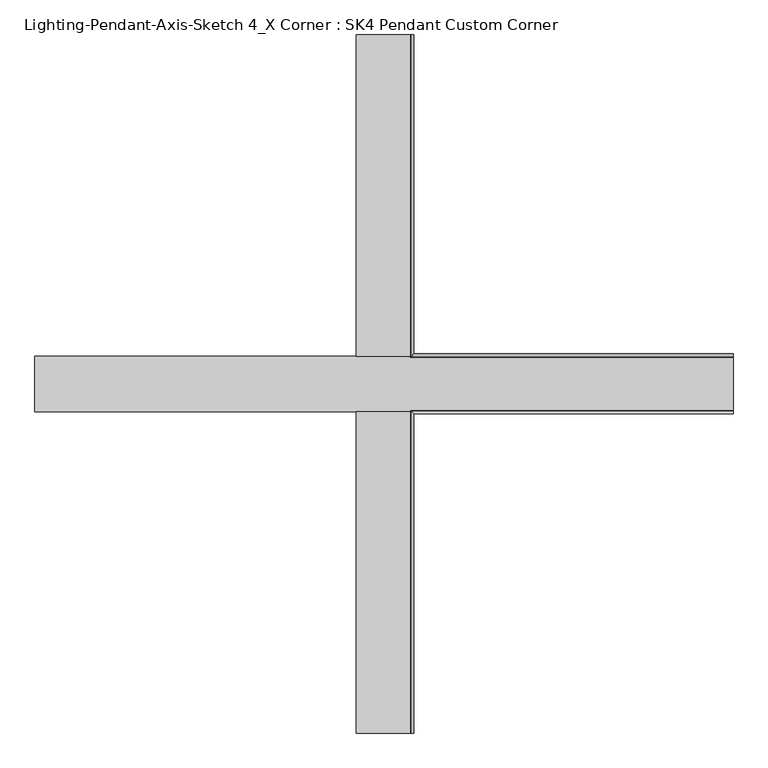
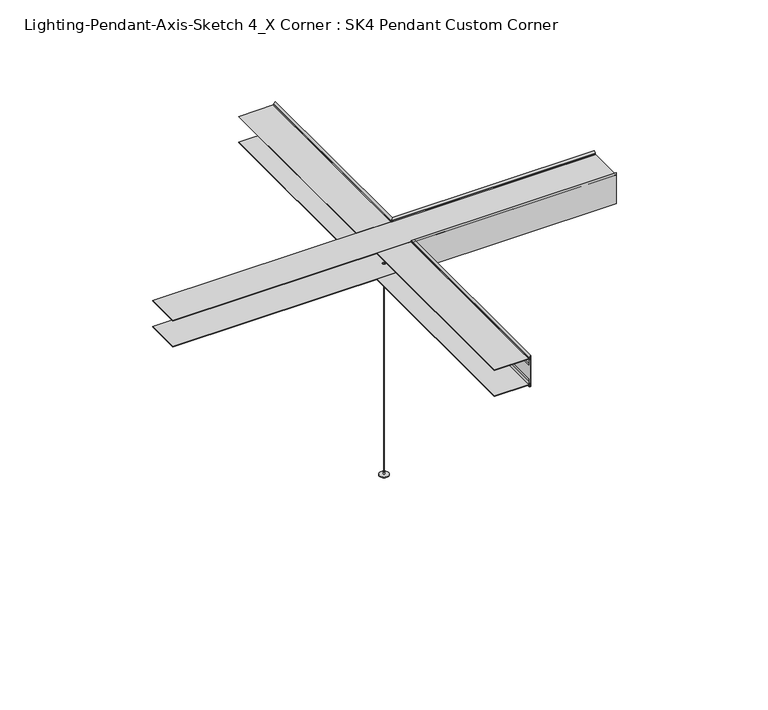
"""IFC4 building model written with IfcOpenShell, lengths in millimetres: light fixture geometry, Lighting-Pendant-Axis-Sketch 4_X Corner : SK4 Pendant Custom Corner."""

from ifc_helpers import new_model, si_unit, point, frame, origin, origin_with_axes, origin_2d, place, context, project, spatial, polyline, circle_curve, ellipse_curve, trimmed, segment, composite_curve, outline, extrude, faceted_brep, source, transform, mapped, element, save
from ifc_brep_helpers import plane_surface, cylinder_surface, revolved_surface, advanced_brep


def lighting_pendant_axis_sketch_4_x_corner_sk4_pendant_custom_45237788(model_context):
    return source(origin(), model_context, "Body", "SolidModel", [
        extrude(outline(composite_curve([segment(trimmed(circle_curve(origin_2d(), 0.396875), [point((-0.396875, 0.0))], [point((0.396875, 0.0))], False, "CARTESIAN"), True, "CONTINUOUS"), segment(trimmed(circle_curve(origin_2d(), 0.396875), [point((0.396875, 0.0))], [point((-0.396875, 0.0))], False, "CARTESIAN"), True, "CONTINUOUS")], self_intersect=False)), frame((0.0, 0.0, 9.525), z_axis=(0.0, 0.0, 1.0), x_axis=(1.0, 0.0, 0.0)), (0.0, 0.0, 1.0), 600.075),
        advanced_brep(
        [(0.0, 1.2, 583.1008521), (0.0, -1.2, 583.1008521), (0.0, -2.95625, 583.1008521), (0.0, 2.95625, 583.1008521), (0.0, 1.2, 580.2508521), (0.0, -1.2, 580.2508521), (0.0, 0.0, 580.2508521), (0.0, 3.75, 616.0364681), (0.0, -3.75, 616.0364681), (0.0, 0.0, 616.0364681), (0.0, 3.75, 584.1008521), (0.0, -3.75, 584.1008521), (0.0, 2.95625, 584.1008521), (0.0, -2.95625, 584.1008521)],
        [
            (0, 1, circle_curve(frame((0.0, 0.0, 583.1008521), z_axis=(0.0, 0.0, 1.0), x_axis=(0.0, -1.0, 0.0)), 1.2)),
            (1, 2),
            (2, 3, circle_curve(frame((0.0, 0.0, 583.1008521), z_axis=(0.0, 0.0, -1.0), x_axis=(0.0, -1.0, 0.0)), 2.95625)),
            (3, 0),
            (1, 0, circle_curve(frame((0.0, 0.0, 583.1008521), z_axis=(0.0, 0.0, 1.0), x_axis=(0.0, -1.0, 0.0)), 1.2)),
            (3, 2, circle_curve(frame((0.0, 0.0, 583.1008521), z_axis=(0.0, 0.0, -1.0), x_axis=(0.0, -1.0, 0.0)), 2.95625)),
            (4, 5, circle_curve(frame((0.0, 0.0, 580.2508521), z_axis=(0.0, 0.0, 1.0), x_axis=(0.0, -1.0, 0.0)), 1.2)),
            (5, 1),
            (0, 4),
            (5, 4, circle_curve(frame((0.0, 0.0, 580.2508521), z_axis=(0.0, 0.0, 1.0), x_axis=(0.0, -1.0, 0.0)), 1.2)),
            (6, 5),
            (4, 6),
            (7, 8, circle_curve(frame((0.0, 0.0, 616.0364681), z_axis=(0.0, 0.0, 1.0), x_axis=(0.0, -1.0, 0.0)), 3.75)),
            (8, 9),
            (9, 7),
            (8, 7, circle_curve(frame((0.0, 0.0, 616.0364681), z_axis=(0.0, 0.0, 1.0), x_axis=(0.0, -1.0, 0.0)), 3.75)),
            (10, 11, circle_curve(frame((0.0, 0.0, 584.1008521), z_axis=(0.0, 0.0, 1.0), x_axis=(0.0, -1.0, 0.0)), 3.75)),
            (11, 8),
            (7, 10),
            (11, 10, circle_curve(frame((0.0, 0.0, 584.1008521), z_axis=(0.0, 0.0, 1.0), x_axis=(0.0, -1.0, 0.0)), 3.75)),
            (12, 13, circle_curve(frame((0.0, 0.0, 584.1008521), z_axis=(0.0, 0.0, 1.0), x_axis=(0.0, -1.0, 0.0)), 2.95625)),
            (13, 11),
            (10, 12),
            (13, 12, circle_curve(frame((0.0, 0.0, 584.1008521), z_axis=(0.0, 0.0, 1.0), x_axis=(0.0, -1.0, 0.0)), 2.95625)),
            (2, 13),
            (12, 3),
        ],
        [
            plane_surface(frame((0.0, 0.0, 583.1008521), z_axis=(0.0, 0.0, -1.0), x_axis=(0.0, -1.0, 0.0))),
            cylinder_surface(frame((0.0, 0.0, 2648.6067943), z_axis=(0.0, 0.0, -1.0), x_axis=(0.0, -1.0, 0.0)), 1.2),
            plane_surface(frame((0.0, 0.0, 580.2508521), z_axis=(0.0, 0.0, -1.0), x_axis=(0.0, -1.0, 0.0))),
            plane_surface(frame((0.0, 0.0, 616.0364681), z_axis=(0.0, 0.0, 1.0), x_axis=(0.0, -1.0, 0.0))),
            cylinder_surface(frame((0.0, 0.0, 2648.6067943), z_axis=(0.0, 0.0, -1.0), x_axis=(0.0, -1.0, 0.0)), 3.75),
            plane_surface(frame((0.0, 0.0, 584.1008521), z_axis=(0.0, 0.0, -1.0), x_axis=(0.0, -1.0, 0.0))),
            cylinder_surface(frame((0.0, 0.0, 2648.6067943), z_axis=(0.0, 0.0, -1.0), x_axis=(0.0, -1.0, 0.0)), 2.95625),
        ],
        [
            (0, [[1, 2, 3, 4]]),
            (0, [[5, -4, 6, -2]]),
            (1, [[7, 8, -1, 9]]),
            (1, [[10, -9, -5, -8]]),
            (2, [[11, -7, 12]]),
            (2, [[-12, -10, -11]]),
            (3, [[13, 14, 15]]),
            (3, [[16, -15, -14]]),
            (4, [[17, 18, -13, 19]]),
            (4, [[20, -19, -16, -18]]),
            (5, [[21, 22, -17, 23]]),
            (5, [[24, -23, -20, -22]]),
            (6, [[-3, 25, -21, 26]]),
            (6, [[-6, -26, -24, -25]]),
        ],
    ),
        extrude(outline(composite_curve([segment(trimmed(circle_curve(origin_2d(), 12.7), [point((-12.7, 0.0))], [point((12.7, 0.0))], False, "CARTESIAN"), True, "CONTINUOUS"), segment(trimmed(circle_curve(origin_2d(), 12.7), [point((12.7, 0.0))], [point((-12.7, 0.0))], False, "CARTESIAN"), True, "CONTINUOUS")], self_intersect=False)), origin_with_axes(), (0.0, 0.0, 1.0), 1.5875),
        extrude(outline(composite_curve([segment(trimmed(circle_curve(origin_2d(), 1.5875), [point((-1.5875, 0.0))], [point((1.5875, 0.0))], False, "CARTESIAN"), True, "CONTINUOUS"), segment(trimmed(circle_curve(origin_2d(), 1.5875), [point((1.5875, 0.0))], [point((-1.5875, 0.0))], False, "CARTESIAN"), True, "CONTINUOUS")], self_intersect=False)), frame((0.0, 0.0, 1.5875), z_axis=(0.0, 0.0, 1.0), x_axis=(1.0, 0.0, 0.0)), (0.0, 0.0, 1.0), 7.9375),
        extrude(outline(polyline([(-48.2599987, 609.6), (48.2599977, 609.6), (48.2599977, 48.2599977), (-48.2599987, 48.2599977), (-48.2599987, 609.6)])), frame((0.0, 0.0, 689.9966516), z_axis=(0.0, 0.0, 1.0), x_axis=(1.0, 0.0, 0.0)), (0.0, 0.0, 1.0), 1.2700021),
        extrude(outline(polyline([(-48.2599987, 609.6), (48.2599977, 609.6), (48.2599977, 48.2599977), (-48.2599987, 48.2599977), (-48.2599987, 609.6)])), frame((0.0, 0.0, 614.5727648), z_axis=(0.0, 0.0, 1.0), x_axis=(1.0, 0.0, 0.0)), (0.0, 0.0, 1.0), 1.27),
        extrude(outline(polyline([(48.2599977, -609.6), (-48.2599987, -609.6), (-48.2599987, -48.2599987), (48.2599977, -48.2599987), (48.2599977, -609.6)])), frame((0.0, 0.0, 689.9966516), z_axis=(0.0, 0.0, 1.0), x_axis=(1.0, 0.0, 0.0)), (0.0, 0.0, 1.0), 1.2700021),
        extrude(outline(polyline([(48.2599977, -609.6), (-48.2599987, -609.6), (-48.2599987, -48.2599987), (48.2599977, -48.2599987), (48.2599977, -609.6)])), frame((0.0, 0.0, 614.5727648), z_axis=(0.0, 0.0, 1.0), x_axis=(1.0, 0.0, 0.0)), (0.0, 0.0, 1.0), 1.27),
        extrude(outline(polyline([(-609.6, -48.2599987), (-609.6, 48.2599977), (609.6, 48.2599977), (609.6, -48.2599987), (-609.6, -48.2599987)])), frame((0.0, 0.0, 689.9966516), z_axis=(0.0, 0.0, 1.0), x_axis=(1.0, 0.0, 0.0)), (0.0, 0.0, 1.0), 1.2700021),
        extrude(outline(polyline([(-609.6, -48.2599987), (-609.6, 48.2599977), (609.6, 48.2599977), (609.6, -48.2599987), (-609.6, -48.2599987)])), frame((0.0, 0.0, 614.5727648), z_axis=(0.0, 0.0, 1.0), x_axis=(1.0, 0.0, 0.0)), (0.0, 0.0, 1.0), 1.27),
        faceted_brep([(52.387502, -609.6, 608.1183333), (52.387502, -609.6, 698.5705614), (47.9424983, -609.6, 694.1255577), (50.4824984, -609.6, 694.1255577), (50.4824984, -609.6, 610.0233333), (48.5749867, -609.6, 610.0233333), (48.5749867, -609.6, 611.2933333), (47.3074984, -609.6, 611.2933333), (47.3074984, -609.6, 609.6312495), (48.8649121, -609.6, 608.1183333), (609.6, -52.387502, 608.1183333), (609.6, -48.8649121, 608.1183333), (609.6, -47.3074984, 609.6312495), (609.6, -47.3074984, 611.2933333), (609.6, -48.5749867, 611.2933333), (609.6, -48.5749867, 610.0233333), (609.6, -50.4824984, 610.0233333), (609.6, -50.4824984, 694.1255577), (609.6, -47.9424983, 694.1255577), (609.6, -52.387502, 698.5705614), (52.387502, -52.387502, 608.1183333), (52.387502, -52.387502, 698.5705614), (47.9424983, -47.9424983, 694.1255577), (50.4824984, -50.4824984, 694.1255577), (50.4824984, -50.4824984, 610.0233333), (48.5749867, -48.5749867, 610.0233333), (48.5749867, -48.5749867, 611.2933333), (47.3074984, -47.3074984, 611.2933333), (47.3074984, -47.3074984, 609.6312495), (48.8649121, -48.8649121, 608.1183333)], [[[0, 1, 2, 3, 4, 5, 6, 7, 8, 9]], [[10, 11, 12, 13, 14, 15, 16, 17, 18, 19]], [[1, 0, 20, 21]], [[2, 1, 21, 22]], [[3, 2, 22, 18, 17, 23]], [[4, 3, 23, 24]], [[5, 4, 24, 16, 15, 25]], [[6, 5, 25, 26]], [[7, 6, 26, 14, 13, 27]], [[8, 7, 27, 28]], [[9, 8, 28, 29]], [[0, 9, 29, 11, 10, 20]], [[21, 20, 10, 19]], [[22, 21, 19, 18]], [[24, 23, 17, 16]], [[26, 25, 15, 14]], [[28, 27, 13, 12]], [[29, 28, 12, 11]]]),
        advanced_brep(
        [(47.7623797, -609.6, 617.2181133), (47.203689, -609.6, 626.6227718), (47.1663883, -609.6, 632.7774986), (46.1433321, -609.6, 632.7774986), (46.2138897, -609.6, 626.1805556), (46.8043106, -609.6, 616.3008472), (48.3048304, -609.6, 616.3008472), (48.9655543, -609.6, 615.7383333), (48.9062894, -609.6, 614.1085157), (46.5723819, -609.6, 614.1933833), (48.2952793, -609.6, 612.3516667), (49.9180536, -609.6, 613.3747222), (49.9533335, -609.6, 615.7030556), (609.6, -47.7623797, 617.2181133), (609.6, -49.9533335, 615.7030556), (609.6, -49.9180536, 613.3747222), (609.6, -48.2952793, 612.3516667), (609.6, -46.5723819, 614.1933833), (609.6, -48.9062894, 614.1085157), (609.6, -48.9655543, 615.7383333), (609.6, -48.3048304, 616.3008472), (609.6, -46.8043106, 616.3008472), (609.6, -46.2138897, 626.1805556), (609.6, -46.1433321, 632.7774986), (609.6, -47.1663883, 632.7774986), (609.6, -47.203689, 626.6227718), (47.7623797, -47.7623797, 617.2181133), (47.203689, -47.203689, 626.6227718), (47.1663883, -47.1663883, 632.7774986), (46.1433321, -46.1433321, 632.7774986), (46.2138897, -46.2138897, 626.1805556), (46.8043106, -46.8043106, 616.3008472), (48.3048304, -48.3048304, 616.3008472), (48.9655543, -48.9655543, 615.7383333), (48.9062894, -48.9062894, 614.1085157), (46.5723819, -46.5723819, 614.1933833), (48.2952793, -48.2952793, 612.3516667), (49.9180536, -49.9180536, 613.3747222), (49.9533335, -49.9533335, 615.7030556)],
        [
            (0, 1),
            (1, 2),
            (2, 3),
            (3, 4),
            (4, 5),
            (5, 6),
            (6, 7, circle_curve(frame((48.3048304, -609.6, 615.63155), z_axis=(0.0, 1.0, 0.0), x_axis=(-1.0, 0.0, 0.0)), 0.6692972)),
            (7, 8),
            (8, 9),
            (9, 10),
            (10, 11, circle_curve(frame((48.7732449, -609.6, 613.3920688), z_axis=(0.0, -1.0, 0.0), x_axis=(-1.0, 0.0, 0.0)), 1.1449401)),
            (11, 12),
            (12, 0, circle_curve(frame((48.3340208, -609.6, 615.7030556), z_axis=(0.0, -1.0, 0.0), x_axis=(-1.0, 0.0, 0.0)), 1.6193127)),
            (13, 14, circle_curve(frame((609.6, -48.3340208, 615.7030556), z_axis=(1.0, 0.0, 0.0), x_axis=(0.0, 1.0, 0.0)), 1.6193127)),
            (14, 15),
            (15, 16, circle_curve(frame((609.6, -48.7732449, 613.3920688), z_axis=(1.0, 0.0, 0.0), x_axis=(0.0, 1.0, 0.0)), 1.1449401)),
            (16, 17),
            (17, 18),
            (18, 19),
            (19, 20, circle_curve(frame((609.6, -48.3048304, 615.63155), z_axis=(-1.0, 0.0, 0.0), x_axis=(0.0, 1.0, 0.0)), 0.6692972)),
            (20, 21),
            (21, 22),
            (22, 23),
            (23, 24),
            (24, 25),
            (25, 13),
            (0, 26),
            (26, 27),
            (27, 1),
            (27, 28),
            (28, 2),
            (28, 24),
            (23, 29),
            (29, 3),
            (29, 30),
            (30, 4),
            (30, 31),
            (31, 5),
            (31, 21),
            (20, 32),
            (32, 6),
            (32, 33, ellipse_curve(frame((48.3048304, -48.3048304, 615.63155), z_axis=(0.7071067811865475, 0.7071067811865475, 0.0), x_axis=(-0.7071067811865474, 0.7071067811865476, 0.0)), 0.9465291, 0.6692972)),
            (33, 7),
            (33, 34),
            (34, 8),
            (34, 35),
            (35, 9),
            (35, 36),
            (36, 10),
            (36, 37, ellipse_curve(frame((48.7732449, -48.7732449, 613.3920688), z_axis=(-0.7071067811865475, -0.7071067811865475, 0.0), x_axis=(0.7071067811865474, -0.7071067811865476, 0.0)), 1.6191898, 1.1449401)),
            (37, 11),
            (37, 38),
            (38, 12),
            (38, 26, ellipse_curve(frame((48.3340208, -48.3340208, 615.7030556), z_axis=(-0.7071067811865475, -0.7071067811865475, 0.0), x_axis=(0.7071067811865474, -0.7071067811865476, 0.0)), 2.290054, 1.6193127)),
            (26, 13),
            (25, 27),
            (22, 30),
            (19, 33),
            (18, 34),
            (17, 35),
            (16, 36),
            (15, 37),
            (14, 38),
        ],
        [
            plane_surface(frame((0.0, -609.6, 609.6), z_axis=(0.0, -1.0, 0.0), x_axis=(0.0, 0.0, 1.0))),
            plane_surface(frame((609.6, 0.0, 609.6), z_axis=(1.0, 0.0, 0.0), x_axis=(0.0, 0.0, 1.0))),
            plane_surface(frame((47.7623797, -609.6, 617.2181133), z_axis=(0.9982401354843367, 0.0, 0.059301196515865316), x_axis=(0.0, 1.0, 0.0))),
            plane_surface(frame((47.203689, -609.6, 626.6227718), z_axis=(0.999981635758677, 0.0, 0.006060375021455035), x_axis=(0.0, 1.0, 0.0))),
            plane_surface(frame((47.1663883, -609.6, 632.7774986), z_axis=(0.0, 0.0, 1.0), x_axis=(0.0, 1.0, 0.0))),
            plane_surface(frame((46.1433321, -609.6, 632.7774986), z_axis=(-0.9999428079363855, 0.0, -0.010694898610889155), x_axis=(0.0, 1.0, 0.0))),
            plane_surface(frame((46.2138897, -609.6, 626.1805556), z_axis=(-0.9982190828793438, 0.0, -0.05965452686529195), x_axis=(0.0, 1.0, 0.0))),
            plane_surface(frame((46.8043106, -609.6, 616.3008472), z_axis=(0.0, 0.0, -1.0), x_axis=(0.0, 1.0, 0.0))),
            revolved_surface(polyline([(47.6355332, -47.63553325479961, 615.63155), (47.6355332, -609.6, 615.63155)]), (48.3048304, -609.6, 615.63155), (0.0, 1.0, 0.0)),
            plane_surface(frame((48.9655543, -609.6, 615.7383333), z_axis=(-0.9993395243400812, 0.0, 0.03633889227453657), x_axis=(0.0, 1.0, 0.0))),
            plane_surface(frame((48.9062894, -609.6, 614.1085157), z_axis=(0.03633889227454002, 0.0, 0.9993395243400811), x_axis=(0.0, 1.0, 0.0))),
            plane_surface(frame((46.5723819, -609.6, 614.1933833), z_axis=(-0.7302711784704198, 0.0, -0.6831573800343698), x_axis=(0.0, 1.0, 0.0))),
            cylinder_surface(frame((48.7732449, -609.6, 613.3920688), z_axis=(0.0, -1.0, 0.0), x_axis=(-1.0, 0.0, 0.0)), 1.1449401),
            plane_surface(frame((49.9180536, -609.6, 613.3747222), z_axis=(0.9998852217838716, 0.0, -0.015150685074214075), x_axis=(0.0, 1.0, 0.0))),
            cylinder_surface(frame((48.3340208, -609.6, 615.7030556), z_axis=(0.0, -1.0, 0.0), x_axis=(-1.0, 0.0, 0.0)), 1.6193127),
            plane_surface(frame((47.7623797, -47.7623797, 617.2181133), z_axis=(0.0, -0.9982401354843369, 0.059301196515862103), x_axis=(1.0, 0.0, 0.0))),
            plane_surface(frame((47.203689, -47.203689, 626.6227718), z_axis=(0.0, -0.999981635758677, 0.006060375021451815), x_axis=(1.0, 0.0, 0.0))),
            plane_surface(frame((46.1433321, -46.1433321, 632.7774986), z_axis=(0.0, 0.9999428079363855, -0.010694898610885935), x_axis=(1.0, 0.0, 0.0))),
            plane_surface(frame((46.2138897, -46.2138897, 626.1805556), z_axis=(0.0, 0.998219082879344, -0.059654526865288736), x_axis=(1.0, 0.0, 0.0))),
            revolved_surface(polyline([(609.6, -47.6355332, 615.63155), (47.6355332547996, -47.6355332, 615.63155)]), (0.0, -48.3048304, 615.63155), (1.0, 0.0, 0.0)),
            plane_surface(frame((48.9655543, -48.9655543, 615.7383333), z_axis=(0.0, 0.9993395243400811, 0.03633889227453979), x_axis=(1.0, 0.0, 0.0))),
            plane_surface(frame((48.9062894, -48.9062894, 614.1085157), z_axis=(0.0, -0.03633889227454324, 0.999339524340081), x_axis=(1.0, 0.0, 0.0))),
            plane_surface(frame((46.5723819, -46.5723819, 614.1933833), z_axis=(0.0, 0.730271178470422, -0.6831573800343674), x_axis=(1.0, 0.0, 0.0))),
            cylinder_surface(frame((0.0, -48.7732449, 613.3920688), z_axis=(-1.0, 0.0, 0.0), x_axis=(0.0, 1.0, 0.0)), 1.1449401),
            plane_surface(frame((49.9180536, -49.9180536, 613.3747222), z_axis=(0.0, -0.9998852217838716, -0.015150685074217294), x_axis=(1.0, 0.0, 0.0))),
            cylinder_surface(frame((0.0, -48.3340208, 615.7030556), z_axis=(-1.0, 0.0, 0.0), x_axis=(0.0, 1.0, 0.0)), 1.6193127),
        ],
        [
            (0, [[1, 2, 3, 4, 5, 6, 7, 8, 9, 10, 11, 12, 13]]),
            (1, [[14, 15, 16, 17, 18, 19, 20, 21, 22, 23, 24, 25, 26]]),
            (2, [[-1, 27, 28, 29]]),
            (3, [[-2, -29, 30, 31]]),
            (4, [[-3, -31, 32, -24, 33, 34]]),
            (5, [[-4, -34, 35, 36]]),
            (6, [[-5, -36, 37, 38]]),
            (7, [[-6, -38, 39, -21, 40, 41]]),
            (8, [[-7, -41, 42, 43]]),
            (9, [[-8, -43, 44, 45]]),
            (10, [[-9, -45, 46, 47]]),
            (11, [[-10, -47, 48, 49]]),
            (12, [[-11, -49, 50, 51]]),
            (13, [[-12, -51, 52, 53]]),
            (14, [[-13, -53, 54, -27]]),
            (15, [[-28, 55, -26, 56]]),
            (16, [[-30, -56, -25, -32]]),
            (17, [[-35, -33, -23, 57]]),
            (18, [[-37, -57, -22, -39]]),
            (19, [[-42, -40, -20, 58]]),
            (20, [[-44, -58, -19, 59]]),
            (21, [[-46, -59, -18, 60]]),
            (22, [[-48, -60, -17, 61]]),
            (23, [[-50, -61, -16, 62]]),
            (24, [[-52, -62, -15, 63]]),
            (25, [[-54, -63, -14, -55]]),
        ],
    ),
        advanced_brep(
        [(47.1044268, -609.6, 679.4782704), (47.2795148, -609.6, 688.3201765), (49.4241668, -609.6, 690.1038875), (49.2830578, -609.6, 692.4322236), (47.6250008, -609.6, 693.3847222), (45.9802057, -609.6, 691.5049613), (48.3121579, -609.6, 691.6345118), (48.4283489, -609.6, 689.5430339), (46.305025, -609.6, 689.3731705), (46.1087781, -609.6, 679.4627439), (46.318589, -609.6, 672.9236111), (47.3427772, -609.6, 672.9236111), (609.6, -47.1044268, 679.4782704), (609.6, -47.3427772, 672.9236111), (609.6, -46.318589, 672.9236111), (609.6, -46.1087781, 679.4627439), (609.6, -46.305025, 689.3731705), (609.6, -48.4283489, 689.5430339), (609.6, -48.3121579, 691.6345118), (609.6, -45.9802057, 691.5049613), (609.6, -47.6250008, 693.3847222), (609.6, -49.2830578, 692.4322236), (609.6, -49.4241668, 690.1038875), (609.6, -47.2795148, 688.3201765), (47.1044268, -47.1044268, 679.4782704), (47.2795148, -47.2795148, 688.3201765), (49.4241668, -49.4241668, 690.1038875), (49.2830578, -49.2830578, 692.4322236), (47.6250008, -47.6250008, 693.3847222), (45.9802057, -45.9802057, 691.5049613), (48.3121579, -48.3121579, 691.6345118), (48.4283489, -48.4283489, 689.5430339), (46.305025, -46.305025, 689.3731705), (46.1087781, -46.1087781, 679.4627439), (46.318589, -46.318589, 672.9236111), (47.3427772, -47.3427772, 672.9236111)],
        [
            (0, 1),
            (1, 2, circle_curve(frame((47.6971346, -609.6, 689.9992206), z_axis=(0.0, -1.0, 0.0), x_axis=(-1.0, 0.0, 0.0)), 1.730201)),
            (2, 3),
            (3, 4, circle_curve(frame((48.1406669, -609.6, 692.3629889), z_axis=(0.0, -1.0, 0.0), x_axis=(-1.0, 0.0, 0.0)), 1.144487)),
            (4, 5),
            (5, 6),
            (6, 7),
            (7, 8),
            (8, 9),
            (9, 10),
            (10, 11),
            (11, 0),
            (12, 13),
            (13, 14),
            (14, 15),
            (15, 16),
            (16, 17),
            (17, 18),
            (18, 19),
            (19, 20),
            (20, 21, circle_curve(frame((609.6, -48.1406669, 692.3629889), z_axis=(1.0, 0.0, 0.0), x_axis=(0.0, 1.0, 0.0)), 1.144487)),
            (21, 22),
            (22, 23, circle_curve(frame((609.6, -47.6971346, 689.9992206), z_axis=(1.0, 0.0, 0.0), x_axis=(0.0, 1.0, 0.0)), 1.730201)),
            (23, 12),
            (0, 24),
            (24, 25),
            (25, 1),
            (25, 26, ellipse_curve(frame((47.6971346, -47.6971346, 689.9992206), z_axis=(-0.7071067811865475, -0.7071067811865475, 0.0), x_axis=(0.7071067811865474, -0.7071067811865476, 0.0)), 2.4468737, 1.730201)),
            (26, 2),
            (26, 27),
            (27, 3),
            (27, 28, ellipse_curve(frame((48.1406669, -48.1406669, 692.3629889), z_axis=(-0.7071067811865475, -0.7071067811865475, 0.0), x_axis=(0.7071067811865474, -0.7071067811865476, 0.0)), 1.618549, 1.144487)),
            (28, 4),
            (28, 29),
            (29, 5),
            (29, 30),
            (30, 6),
            (30, 31),
            (31, 7),
            (31, 32),
            (32, 8),
            (32, 33),
            (33, 9),
            (33, 34),
            (34, 10),
            (34, 14),
            (13, 35),
            (35, 11),
            (35, 24),
            (24, 12),
            (23, 25),
            (22, 26),
            (21, 27),
            (20, 28),
            (19, 29),
            (18, 30),
            (17, 31),
            (16, 32),
            (15, 33),
        ],
        [
            plane_surface(frame((0.0, -609.6, 609.6), z_axis=(0.0, -1.0, 0.0), x_axis=(0.0, 0.0, 1.0))),
            plane_surface(frame((609.6, 0.0, 609.6), z_axis=(1.0, 0.0, 0.0), x_axis=(0.0, 0.0, 1.0))),
            plane_surface(frame((47.1044268, -609.6, 679.4782704), z_axis=(0.9998039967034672, 0.0, -0.019798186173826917), x_axis=(0.0, 1.0, 0.0))),
            cylinder_surface(frame((47.6971346, -609.6, 689.9992206), z_axis=(0.0, -1.0, 0.0), x_axis=(-1.0, 0.0, 0.0)), 1.730201),
            plane_surface(frame((49.4241668, -609.6, 690.1038875), z_axis=(0.9981685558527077, 0.0, 0.06049408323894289), x_axis=(0.0, 1.0, 0.0))),
            cylinder_surface(frame((48.1406669, -609.6, 692.3629889), z_axis=(0.0, -1.0, 0.0), x_axis=(-1.0, 0.0, 0.0)), 1.144487),
            plane_surface(frame((47.6250008, -609.6, 693.3847222), z_axis=(-0.7525758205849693, 0.0, 0.6585056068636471), x_axis=(0.0, 1.0, 0.0))),
            plane_surface(frame((45.9802057, -609.6, 691.5049613), z_axis=(0.05546897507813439, 0.0, -0.9984604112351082), x_axis=(0.0, 1.0, 0.0))),
            plane_surface(frame((48.3121579, -609.6, 691.6345118), z_axis=(-0.9984604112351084, 0.0, -0.05546897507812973), x_axis=(0.0, 1.0, 0.0))),
            plane_surface(frame((48.4283489, -609.6, 689.5430339), z_axis=(-0.07974403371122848, 0.0, 0.9968153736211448), x_axis=(0.0, 1.0, 0.0))),
            plane_surface(frame((46.305025, -609.6, 689.3731705), z_axis=(-0.9998039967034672, 0.0, 0.019798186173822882), x_axis=(0.0, 1.0, 0.0))),
            plane_surface(frame((46.1087781, -609.6, 679.4627439), z_axis=(-0.99948565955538, 0.0, -0.03206893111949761), x_axis=(0.0, 1.0, 0.0))),
            plane_surface(frame((46.318589, -609.6, 672.9236111), z_axis=(0.0, 0.0, -1.0), x_axis=(0.0, 1.0, 0.0))),
            plane_surface(frame((47.3427772, -609.6, 672.9236111), z_axis=(0.9993395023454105, 0.0, 0.03633949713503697), x_axis=(0.0, 1.0, 0.0))),
            plane_surface(frame((47.1044268, -47.1044268, 679.4782704), z_axis=(0.0, -0.9998039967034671, -0.019798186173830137), x_axis=(1.0, 0.0, 0.0))),
            cylinder_surface(frame((0.0, -47.6971346, 689.9992206), z_axis=(-1.0, 0.0, 0.0), x_axis=(0.0, 1.0, 0.0)), 1.730201),
            plane_surface(frame((49.4241668, -49.4241668, 690.1038875), z_axis=(0.0, -0.9981685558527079, 0.06049408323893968), x_axis=(1.0, 0.0, 0.0))),
            cylinder_surface(frame((0.0, -48.1406669, 692.3629889), z_axis=(-1.0, 0.0, 0.0), x_axis=(0.0, 1.0, 0.0)), 1.144487),
            plane_surface(frame((47.6250008, -47.6250008, 693.3847222), z_axis=(0.0, 0.7525758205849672, 0.6585056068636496), x_axis=(1.0, 0.0, 0.0))),
            plane_surface(frame((45.9802057, -45.9802057, 691.5049613), z_axis=(0.0, -0.05546897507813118, -0.9984604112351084), x_axis=(1.0, 0.0, 0.0))),
            plane_surface(frame((48.3121579, -48.3121579, 691.6345118), z_axis=(0.0, 0.9984604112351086, -0.055468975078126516), x_axis=(1.0, 0.0, 0.0))),
            plane_surface(frame((48.4283489, -48.4283489, 689.5430339), z_axis=(0.0, 0.07974403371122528, 0.996815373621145), x_axis=(1.0, 0.0, 0.0))),
            plane_surface(frame((46.305025, -46.305025, 689.3731705), z_axis=(0.0, 0.9998039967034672, 0.019798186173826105), x_axis=(1.0, 0.0, 0.0))),
            plane_surface(frame((46.1087781, -46.1087781, 679.4627439), z_axis=(0.0, 0.9994856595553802, -0.03206893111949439), x_axis=(1.0, 0.0, 0.0))),
            plane_surface(frame((47.3427772, -47.3427772, 672.9236111), z_axis=(0.0, -0.9993395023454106, 0.03633949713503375), x_axis=(1.0, 0.0, 0.0))),
        ],
        [
            (0, [[1, 2, 3, 4, 5, 6, 7, 8, 9, 10, 11, 12]]),
            (1, [[13, 14, 15, 16, 17, 18, 19, 20, 21, 22, 23, 24]]),
            (2, [[-1, 25, 26, 27]]),
            (3, [[-2, -27, 28, 29]]),
            (4, [[-3, -29, 30, 31]]),
            (5, [[-4, -31, 32, 33]]),
            (6, [[-5, -33, 34, 35]]),
            (7, [[-6, -35, 36, 37]]),
            (8, [[-7, -37, 38, 39]]),
            (9, [[-8, -39, 40, 41]]),
            (10, [[-9, -41, 42, 43]]),
            (11, [[-10, -43, 44, 45]]),
            (12, [[-11, -45, 46, -14, 47, 48]]),
            (13, [[-12, -48, 49, -25]]),
            (14, [[-26, 50, -24, 51]]),
            (15, [[-28, -51, -23, 52]]),
            (16, [[-30, -52, -22, 53]]),
            (17, [[-32, -53, -21, 54]]),
            (18, [[-34, -54, -20, 55]]),
            (19, [[-36, -55, -19, 56]]),
            (20, [[-38, -56, -18, 57]]),
            (21, [[-40, -57, -17, 58]]),
            (22, [[-42, -58, -16, 59]]),
            (23, [[-44, -59, -15, -46]]),
            (24, [[-49, -47, -13, -50]]),
        ],
    ),
        faceted_brep([(52.387502, 609.6, 608.1183333), (48.8649121, 609.6, 608.1183333), (47.3074984, 609.6, 609.6312495), (47.3074984, 609.6, 611.2933333), (48.5749867, 609.6, 611.2933333), (48.5749867, 609.6, 610.0233333), (50.4824984, 609.6, 610.0233333), (50.4824984, 609.6, 694.1255577), (47.9424983, 609.6, 694.1255577), (52.387502, 609.6, 698.5705614), (609.6, 52.387502, 608.1183333), (609.6, 52.387502, 698.5705614), (609.6, 47.9424983, 694.1255577), (609.6, 50.4824984, 694.1255577), (609.6, 50.4824984, 610.0233333), (609.6, 48.5749867, 610.0233333), (609.6, 48.5749867, 611.2933333), (609.6, 47.3074984, 611.2933333), (609.6, 47.3074984, 609.6312495), (609.6, 48.8649121, 608.1183333), (52.387502, 52.387502, 608.1183333), (48.8649121, 48.8649121, 608.1183333), (47.3074984, 47.3074984, 609.6312495), (47.3074984, 47.3074984, 611.2933333), (48.5749867, 48.5749867, 611.2933333), (48.5749867, 48.5749867, 610.0233333), (50.4824984, 50.4824984, 610.0233333), (50.4824984, 50.4824984, 694.1255577), (47.9424983, 47.9424983, 694.1255577), (52.387502, 52.387502, 698.5705614)], [[[0, 1, 2, 3, 4, 5, 6, 7, 8, 9]], [[10, 11, 12, 13, 14, 15, 16, 17, 18, 19]], [[1, 0, 20, 10, 19, 21]], [[2, 1, 21, 22]], [[3, 2, 22, 23]], [[4, 3, 23, 17, 16, 24]], [[5, 4, 24, 25]], [[6, 5, 25, 15, 14, 26]], [[7, 6, 26, 27]], [[8, 7, 27, 13, 12, 28]], [[9, 8, 28, 29]], [[0, 9, 29, 20]], [[22, 21, 19, 18]], [[23, 22, 18, 17]], [[25, 24, 16, 15]], [[27, 26, 14, 13]], [[29, 28, 12, 11]], [[20, 29, 11, 10]]]),
        advanced_brep(
        [(47.7623797, 609.6, 617.2181133), (49.9533335, 609.6, 615.7030556), (49.9180536, 609.6, 613.3747222), (48.2952793, 609.6, 612.3516667), (46.6913645, 609.6, 614.0661951), (48.9655543, 609.6, 614.2021029), (48.9655543, 609.6, 615.7383333), (48.3048304, 609.6, 616.3008472), (46.8043106, 609.6, 616.3008472), (46.2138897, 609.6, 626.1805556), (46.1433321, 609.6, 632.7774986), (47.1663883, 609.6, 632.7774986), (47.203689, 609.6, 626.6227718), (609.6, 47.7623797, 617.2181133), (609.6, 47.203689, 626.6227718), (609.6, 47.1663883, 632.7774986), (609.6, 46.1433321, 632.7774986), (609.6, 46.2138897, 626.1805556), (609.6, 46.8043106, 616.3008472), (609.6, 48.3048304, 616.3008472), (609.6, 48.9655543, 615.7383333), (609.6, 48.9655543, 614.2021029), (609.6, 46.6913645, 614.0661951), (609.6, 48.2952793, 612.3516667), (609.6, 49.9180536, 613.3747222), (609.6, 49.9533335, 615.7030556), (47.7623797, 47.7623797, 617.2181133), (49.9533335, 49.9533335, 615.7030556), (49.9180536, 49.9180536, 613.3747222), (48.2952793, 48.2952793, 612.3516667), (46.6913645, 46.6913645, 614.0661951), (48.9655543, 48.9655543, 614.2021029), (48.9655543, 48.9655543, 615.7383333), (48.3048304, 48.3048304, 616.3008472), (46.8043106, 46.8043106, 616.3008472), (46.2138897, 46.2138897, 626.1805556), (46.1433321, 46.1433321, 632.7774986), (47.1663883, 47.1663883, 632.7774986), (47.203689, 47.203689, 626.6227718)],
        [
            (0, 1, circle_curve(frame((48.3340208, 609.6, 615.7030556), z_axis=(0.0, 1.0, 0.0), x_axis=(1.0, 0.0, 0.0)), 1.6193127)),
            (1, 2),
            (2, 3, circle_curve(frame((48.7732449, 609.6, 613.3920688), z_axis=(0.0, 1.0, 0.0), x_axis=(1.0, 0.0, 0.0)), 1.1449401)),
            (3, 4),
            (4, 5),
            (5, 6),
            (6, 7, circle_curve(frame((48.3048304, 609.6, 615.63155), z_axis=(0.0, -1.0, 0.0), x_axis=(1.0, 0.0, 0.0)), 0.6692972)),
            (7, 8),
            (8, 9),
            (9, 10),
            (10, 11),
            (11, 12),
            (12, 0),
            (13, 14),
            (14, 15),
            (15, 16),
            (16, 17),
            (17, 18),
            (18, 19),
            (19, 20, circle_curve(frame((609.6, 48.3048304, 615.63155), z_axis=(-1.0, 0.0, 0.0), x_axis=(0.0, 1.0, 0.0)), 0.6692972)),
            (20, 21),
            (21, 22),
            (22, 23),
            (23, 24, circle_curve(frame((609.6, 48.7732449, 613.3920688), z_axis=(1.0, 0.0, 0.0), x_axis=(0.0, 1.0, 0.0)), 1.1449401)),
            (24, 25),
            (25, 13, circle_curve(frame((609.6, 48.3340208, 615.7030556), z_axis=(1.0, 0.0, 0.0), x_axis=(0.0, 1.0, 0.0)), 1.6193127)),
            (0, 26),
            (26, 27, ellipse_curve(frame((48.3340208, 48.3340208, 615.7030556), z_axis=(-0.7071067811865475, 0.7071067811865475, 0.0), x_axis=(0.7071067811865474, 0.7071067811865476, 0.0)), 2.290054, 1.6193127)),
            (27, 1),
            (27, 28),
            (28, 2),
            (28, 29, ellipse_curve(frame((48.7732449, 48.7732449, 613.3920688), z_axis=(-0.7071067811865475, 0.7071067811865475, 0.0), x_axis=(0.7071067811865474, 0.7071067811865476, 0.0)), 1.6191898, 1.1449401)),
            (29, 3),
            (29, 30),
            (30, 4),
            (30, 31),
            (31, 5),
            (31, 32),
            (32, 6),
            (32, 33, ellipse_curve(frame((48.3048304, 48.3048304, 615.63155), z_axis=(0.7071067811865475, -0.7071067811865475, 0.0), x_axis=(-0.7071067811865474, -0.7071067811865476, 0.0)), 0.9465291, 0.6692972)),
            (33, 7),
            (33, 19),
            (18, 34),
            (34, 8),
            (34, 35),
            (35, 9),
            (35, 36),
            (36, 10),
            (36, 16),
            (15, 37),
            (37, 11),
            (37, 38),
            (38, 12),
            (38, 26),
            (26, 13),
            (25, 27),
            (24, 28),
            (23, 29),
            (22, 30),
            (21, 31),
            (20, 32),
            (17, 35),
            (14, 38),
        ],
        [
            plane_surface(frame((0.0, 609.6, 609.6), z_axis=(0.0, 1.0, 0.0), x_axis=(0.0, 0.0, 1.0))),
            plane_surface(frame((609.6, 0.0, 609.6), z_axis=(1.0, 0.0, 0.0), x_axis=(0.0, 0.0, 1.0))),
            cylinder_surface(frame((48.3340208, 609.6, 615.7030556), z_axis=(0.0, 1.0, 0.0), x_axis=(1.0, 0.0, 0.0)), 1.6193127),
            plane_surface(frame((49.9533335, 609.6, 615.7030556), z_axis=(0.9998852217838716, 0.0, -0.015150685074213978), x_axis=(0.0, -1.0, 0.0))),
            cylinder_surface(frame((48.7732449, 609.6, 613.3920688), z_axis=(0.0, 1.0, 0.0), x_axis=(1.0, 0.0, 0.0)), 1.1449401),
            plane_surface(frame((48.2952793, 609.6, 612.3516667), z_axis=(-0.7302711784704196, 0.0, -0.68315738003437), x_axis=(0.0, -1.0, 0.0))),
            plane_surface(frame((46.6913645, 609.6, 614.0661951), z_axis=(-0.059654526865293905, 0.0, 0.9982190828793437), x_axis=(0.0, -1.0, 0.0))),
            plane_surface(frame((48.9655543, 609.6, 614.2021029), z_axis=(-1.0, 0.0, 0.0), x_axis=(0.0, -1.0, 0.0))),
            revolved_surface(polyline([(48.9741276, 47.63553325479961, 615.63155), (48.9741276, 609.6, 615.63155)]), (48.3048304, 609.6, 615.63155), (0.0, -1.0, 0.0)),
            plane_surface(frame((48.3048304, 609.6, 616.3008472), z_axis=(0.0, 0.0, -1.0), x_axis=(0.0, -1.0, 0.0))),
            plane_surface(frame((46.8043106, 609.6, 616.3008472), z_axis=(-0.9982190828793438, 0.0, -0.059654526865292), x_axis=(0.0, -1.0, 0.0))),
            plane_surface(frame((46.2138897, 609.6, 626.1805556), z_axis=(-0.9999428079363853, 0.0, -0.010694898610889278), x_axis=(0.0, -1.0, 0.0))),
            plane_surface(frame((46.1433321, 609.6, 632.7774986), z_axis=(0.0, 0.0, 1.0), x_axis=(0.0, -1.0, 0.0))),
            plane_surface(frame((47.1663883, 609.6, 632.7774986), z_axis=(0.999981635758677, 0.0, 0.006060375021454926), x_axis=(0.0, -1.0, 0.0))),
            plane_surface(frame((47.203689, 609.6, 626.6227718), z_axis=(0.9982401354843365, 0.0, 0.059301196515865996), x_axis=(0.0, -1.0, 0.0))),
            cylinder_surface(frame((0.0, 48.3340208, 615.7030556), z_axis=(-1.0, 0.0, 0.0), x_axis=(0.0, 1.0, 0.0)), 1.6193127),
            plane_surface(frame((49.9533335, 49.9533335, 615.7030556), z_axis=(0.0, 0.9998852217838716, -0.015150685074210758), x_axis=(1.0, 0.0, 0.0))),
            cylinder_surface(frame((0.0, 48.7732449, 613.3920688), z_axis=(-1.0, 0.0, 0.0), x_axis=(0.0, 1.0, 0.0)), 1.1449401),
            plane_surface(frame((48.2952793, 48.2952793, 612.3516667), z_axis=(0.0, -0.7302711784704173, -0.6831573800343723), x_axis=(1.0, 0.0, 0.0))),
            plane_surface(frame((46.6913645, 46.6913645, 614.0661951), z_axis=(0.0, -0.05965452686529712, 0.9982190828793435), x_axis=(1.0, 0.0, 0.0))),
            plane_surface(frame((48.9655543, 48.9655543, 614.2021029), z_axis=(0.0, -1.0, 0.0), x_axis=(1.0, 0.0, 0.0))),
            revolved_surface(polyline([(609.6, 48.9741276, 615.63155), (47.6355332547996, 48.9741276, 615.63155)]), (0.0, 48.3048304, 615.63155), (1.0, 0.0, 0.0)),
            plane_surface(frame((46.8043106, 46.8043106, 616.3008472), z_axis=(0.0, -0.9982190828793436, -0.05965452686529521), x_axis=(1.0, 0.0, 0.0))),
            plane_surface(frame((46.2138897, 46.2138897, 626.1805556), z_axis=(0.0, -0.9999428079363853, -0.010694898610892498), x_axis=(1.0, 0.0, 0.0))),
            plane_surface(frame((47.1663883, 47.1663883, 632.7774986), z_axis=(0.0, 0.999981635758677, 0.006060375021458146), x_axis=(1.0, 0.0, 0.0))),
            plane_surface(frame((47.203689, 47.203689, 626.6227718), z_axis=(0.0, 0.9982401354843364, 0.059301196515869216), x_axis=(1.0, 0.0, 0.0))),
        ],
        [
            (0, [[1, 2, 3, 4, 5, 6, 7, 8, 9, 10, 11, 12, 13]]),
            (1, [[14, 15, 16, 17, 18, 19, 20, 21, 22, 23, 24, 25, 26]]),
            (2, [[-1, 27, 28, 29]]),
            (3, [[-2, -29, 30, 31]]),
            (4, [[-3, -31, 32, 33]]),
            (5, [[-4, -33, 34, 35]]),
            (6, [[-5, -35, 36, 37]]),
            (7, [[-6, -37, 38, 39]]),
            (8, [[-7, -39, 40, 41]]),
            (9, [[-8, -41, 42, -19, 43, 44]]),
            (10, [[-9, -44, 45, 46]]),
            (11, [[-10, -46, 47, 48]]),
            (12, [[-11, -48, 49, -16, 50, 51]]),
            (13, [[-12, -51, 52, 53]]),
            (14, [[-13, -53, 54, -27]]),
            (15, [[-28, 55, -26, 56]]),
            (16, [[-30, -56, -25, 57]]),
            (17, [[-32, -57, -24, 58]]),
            (18, [[-34, -58, -23, 59]]),
            (19, [[-36, -59, -22, 60]]),
            (20, [[-38, -60, -21, 61]]),
            (21, [[-40, -61, -20, -42]]),
            (22, [[-45, -43, -18, 62]]),
            (23, [[-47, -62, -17, -49]]),
            (24, [[-52, -50, -15, 63]]),
            (25, [[-54, -63, -14, -55]]),
        ],
    ),
        advanced_brep(
        [(47.1044268, 609.6, 679.4782704), (47.3427772, 609.6, 672.9236111), (46.318589, 609.6, 672.9236111), (46.1087781, 609.6, 679.4627439), (46.305025, 609.6, 689.3731705), (48.4283489, 609.6, 689.5430339), (48.3121579, 609.6, 691.6345118), (45.9802057, 609.6, 691.5049613), (47.6250008, 609.6, 693.3847222), (49.2830578, 609.6, 692.4322236), (49.4241668, 609.6, 690.1038875), (47.2795148, 609.6, 688.3201765), (609.6, 47.1044268, 679.4782704), (609.6, 47.2795148, 688.3201765), (609.6, 49.4241668, 690.1038875), (609.6, 49.2830578, 692.4322236), (609.6, 47.6250008, 693.3847222), (609.6, 45.9802057, 691.5049613), (609.6, 48.3121579, 691.6345118), (609.6, 48.4283489, 689.5430339), (609.6, 46.305025, 689.3731705), (609.6, 46.1087781, 679.4627439), (609.6, 46.318589, 672.9236111), (609.6, 47.3427772, 672.9236111), (47.1044268, 47.1044268, 679.4782704), (47.3427772, 47.3427772, 672.9236111), (46.318589, 46.318589, 672.9236111), (46.1087781, 46.1087781, 679.4627439), (46.305025, 46.305025, 689.3731705), (48.4283489, 48.4283489, 689.5430339), (48.3121579, 48.3121579, 691.6345118), (45.9802057, 45.9802057, 691.5049613), (47.6250008, 47.6250008, 693.3847222), (49.2830578, 49.2830578, 692.4322236), (49.4241668, 49.4241668, 690.1038875), (47.2795148, 47.2795148, 688.3201765)],
        [
            (0, 1),
            (1, 2),
            (2, 3),
            (3, 4),
            (4, 5),
            (5, 6),
            (6, 7),
            (7, 8),
            (8, 9, circle_curve(frame((48.1406669, 609.6, 692.3629889), z_axis=(0.0, 1.0, 0.0), x_axis=(1.0, 0.0, 0.0)), 1.144487)),
            (9, 10),
            (10, 11, circle_curve(frame((47.6971346, 609.6, 689.9992206), z_axis=(0.0, 1.0, 0.0), x_axis=(1.0, 0.0, 0.0)), 1.730201)),
            (11, 0),
            (12, 13),
            (13, 14, circle_curve(frame((609.6, 47.6971346, 689.9992206), z_axis=(1.0, 0.0, 0.0), x_axis=(0.0, 1.0, 0.0)), 1.730201)),
            (14, 15),
            (15, 16, circle_curve(frame((609.6, 48.1406669, 692.3629889), z_axis=(1.0, 0.0, 0.0), x_axis=(0.0, 1.0, 0.0)), 1.144487)),
            (16, 17),
            (17, 18),
            (18, 19),
            (19, 20),
            (20, 21),
            (21, 22),
            (22, 23),
            (23, 12),
            (0, 24),
            (24, 25),
            (25, 1),
            (25, 23),
            (22, 26),
            (26, 2),
            (26, 27),
            (27, 3),
            (27, 28),
            (28, 4),
            (28, 29),
            (29, 5),
            (29, 30),
            (30, 6),
            (30, 31),
            (31, 7),
            (31, 32),
            (32, 8),
            (32, 33, ellipse_curve(frame((48.1406669, 48.1406669, 692.3629889), z_axis=(-0.7071067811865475, 0.7071067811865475, 0.0), x_axis=(0.7071067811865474, 0.7071067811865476, 0.0)), 1.618549, 1.144487)),
            (33, 9),
            (33, 34),
            (34, 10),
            (34, 35, ellipse_curve(frame((47.6971346, 47.6971346, 689.9992206), z_axis=(-0.7071067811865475, 0.7071067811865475, 0.0), x_axis=(0.7071067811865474, 0.7071067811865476, 0.0)), 2.4468737, 1.730201)),
            (35, 11),
            (35, 24),
            (24, 12),
            (21, 27),
            (20, 28),
            (19, 29),
            (18, 30),
            (17, 31),
            (16, 32),
            (15, 33),
            (14, 34),
            (13, 35),
        ],
        [
            plane_surface(frame((0.0, 609.6, 609.6), z_axis=(0.0, 1.0, 0.0), x_axis=(0.0, 0.0, 1.0))),
            plane_surface(frame((609.6, 0.0, 609.6), z_axis=(1.0, 0.0, 0.0), x_axis=(0.0, 0.0, 1.0))),
            plane_surface(frame((47.1044268, 609.6, 679.4782704), z_axis=(0.9993395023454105, 0.0, 0.03633949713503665), x_axis=(0.0, -1.0, 0.0))),
            plane_surface(frame((47.3427772, 609.6, 672.9236111), z_axis=(0.0, 0.0, -1.0), x_axis=(0.0, -1.0, 0.0))),
            plane_surface(frame((46.318589, 609.6, 672.9236111), z_axis=(-0.99948565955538, 0.0, -0.03206893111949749), x_axis=(0.0, -1.0, 0.0))),
            plane_surface(frame((46.1087781, 609.6, 679.4627439), z_axis=(-0.9998039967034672, 0.0, 0.0197981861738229), x_axis=(0.0, -1.0, 0.0))),
            plane_surface(frame((46.305025, 609.6, 689.3731705), z_axis=(-0.07974403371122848, 0.0, 0.9968153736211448), x_axis=(0.0, -1.0, 0.0))),
            plane_surface(frame((48.4283489, 609.6, 689.5430339), z_axis=(-0.9984604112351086, 0.0, -0.05546897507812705), x_axis=(0.0, -1.0, 0.0))),
            plane_surface(frame((48.3121579, 609.6, 691.6345118), z_axis=(0.0554689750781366, 0.0, -0.9984604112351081), x_axis=(0.0, -1.0, 0.0))),
            plane_surface(frame((45.9802057, 609.6, 691.5049613), z_axis=(-0.7525758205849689, 0.0, 0.6585056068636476), x_axis=(0.0, -1.0, 0.0))),
            cylinder_surface(frame((48.1406669, 609.6, 692.3629889), z_axis=(0.0, 1.0, 0.0), x_axis=(1.0, 0.0, 0.0)), 1.144487),
            plane_surface(frame((49.2830578, 609.6, 692.4322236), z_axis=(0.9981685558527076, 0.0, 0.06049408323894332), x_axis=(0.0, -1.0, 0.0))),
            cylinder_surface(frame((47.6971346, 609.6, 689.9992206), z_axis=(0.0, 1.0, 0.0), x_axis=(1.0, 0.0, 0.0)), 1.730201),
            plane_surface(frame((47.2795148, 609.6, 688.3201765), z_axis=(0.9998039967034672, 0.0, -0.019798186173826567), x_axis=(0.0, -1.0, 0.0))),
            plane_surface(frame((47.1044268, 47.1044268, 679.4782704), z_axis=(0.0, 0.9993395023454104, 0.03633949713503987), x_axis=(1.0, 0.0, 0.0))),
            plane_surface(frame((46.318589, 46.318589, 672.9236111), z_axis=(0.0, -0.9994856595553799, -0.03206893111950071), x_axis=(1.0, 0.0, 0.0))),
            plane_surface(frame((46.1087781, 46.1087781, 679.4627439), z_axis=(0.0, -0.9998039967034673, 0.01979818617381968), x_axis=(1.0, 0.0, 0.0))),
            plane_surface(frame((46.305025, 46.305025, 689.3731705), z_axis=(0.0, -0.07974403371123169, 0.9968153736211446), x_axis=(1.0, 0.0, 0.0))),
            plane_surface(frame((48.4283489, 48.4283489, 689.5430339), z_axis=(0.0, -0.9984604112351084, -0.05546897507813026), x_axis=(1.0, 0.0, 0.0))),
            plane_surface(frame((48.3121579, 48.3121579, 691.6345118), z_axis=(0.0, 0.05546897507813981, -0.9984604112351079), x_axis=(1.0, 0.0, 0.0))),
            plane_surface(frame((45.9802057, 45.9802057, 691.5049613), z_axis=(0.0, -0.752575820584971, 0.6585056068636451), x_axis=(1.0, 0.0, 0.0))),
            cylinder_surface(frame((0.0, 48.1406669, 692.3629889), z_axis=(-1.0, 0.0, 0.0), x_axis=(0.0, 1.0, 0.0)), 1.144487),
            plane_surface(frame((49.2830578, 49.2830578, 692.4322236), z_axis=(0.0, 0.9981685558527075, 0.06049408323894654), x_axis=(1.0, 0.0, 0.0))),
            cylinder_surface(frame((0.0, 47.6971346, 689.9992206), z_axis=(-1.0, 0.0, 0.0), x_axis=(0.0, 1.0, 0.0)), 1.730201),
            plane_surface(frame((47.2795148, 47.2795148, 688.3201765), z_axis=(0.0, 0.9998039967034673, -0.019798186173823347), x_axis=(1.0, 0.0, 0.0))),
        ],
        [
            (0, [[1, 2, 3, 4, 5, 6, 7, 8, 9, 10, 11, 12]]),
            (1, [[13, 14, 15, 16, 17, 18, 19, 20, 21, 22, 23, 24]]),
            (2, [[-1, 25, 26, 27]]),
            (3, [[-2, -27, 28, -23, 29, 30]]),
            (4, [[-3, -30, 31, 32]]),
            (5, [[-4, -32, 33, 34]]),
            (6, [[-5, -34, 35, 36]]),
            (7, [[-6, -36, 37, 38]]),
            (8, [[-7, -38, 39, 40]]),
            (9, [[-8, -40, 41, 42]]),
            (10, [[-9, -42, 43, 44]]),
            (11, [[-10, -44, 45, 46]]),
            (12, [[-11, -46, 47, 48]]),
            (13, [[-12, -48, 49, -25]]),
            (14, [[-26, 50, -24, -28]]),
            (15, [[-31, -29, -22, 51]]),
            (16, [[-33, -51, -21, 52]]),
            (17, [[-35, -52, -20, 53]]),
            (18, [[-37, -53, -19, 54]]),
            (19, [[-39, -54, -18, 55]]),
            (20, [[-41, -55, -17, 56]]),
            (21, [[-43, -56, -16, 57]]),
            (22, [[-45, -57, -15, 58]]),
            (23, [[-47, -58, -14, 59]]),
            (24, [[-49, -59, -13, -50]]),
        ],
    ),
    ])


if __name__ == "__main__":
    model = new_model("IFC4")
    model_context = context("Model", 3, world=origin())
    ifc_project = project(units=[si_unit("LENGTHUNIT", "METRE", prefix="MILLI")], contexts=[model_context])
    site = spatial("IfcSite", under=ifc_project)
    building = spatial("IfcBuilding", under=site)
    placement = place(None, origin())
    lighting_pendant_axis_sketch_4_x_corner_sk4_pendant_custom_shape = lighting_pendant_axis_sketch_4_x_corner_sk4_pendant_custom_45237788(model_context)
    element("IfcLightFixture", 1, ObjectType="Lighting-Pendant-Axis-Sketch 4_X Corner : SK4 Pendant Custom Corner", at=placement, inside=building, context=model_context, shape_type="MappedRepresentation", body=[
        mapped(lighting_pendant_axis_sketch_4_x_corner_sk4_pendant_custom_shape, transform((0.0, 0.0, 0.0), x_axis=(1.0, 0.0, 0.0), y_axis=(0.0, 1.0, 0.0), z_axis=(0.0, 0.0, 1.0))),
    ])
    save(model, "model.ifc")
